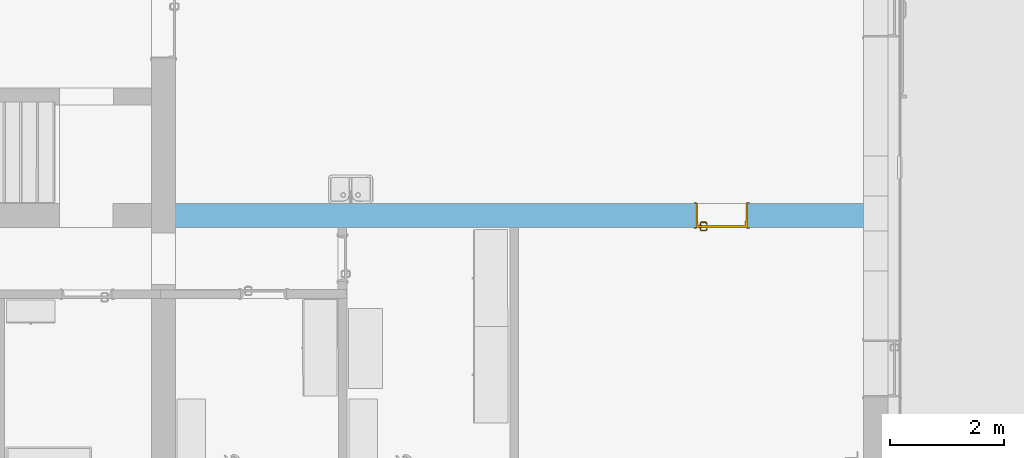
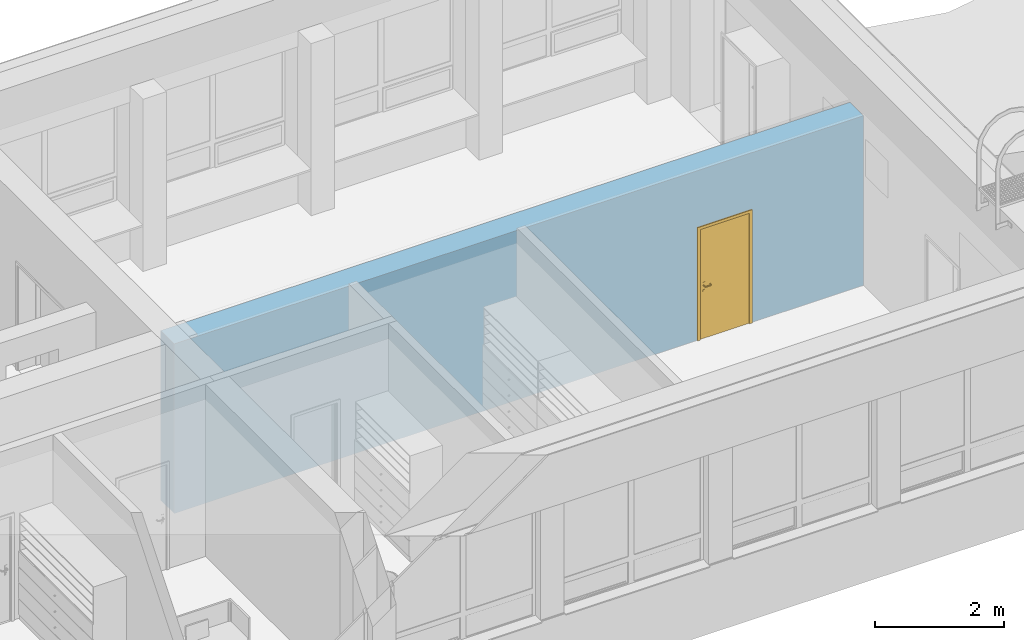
# One storey, part 68 of 194: 1 door, 1 opening, plus 1 element that does not belong to this part.
"""IFC2X3 building model written with IfcOpenShell, lengths in millimetres."""

from ifc_helpers import new_model, entity, si_unit, converted_unit, derived_unit, money_unit, direction, frame, origin_with_axes, origin_2d_with_axis, place, context, subcontext, project, spatial, polyline, rectangle, outline, extrude, open_shell, faceted_brep, surface_model, material, layer, layer_set, layer_usage, type_object, element, fill, save


model = new_model("IFC2X3")

# Units and contexts
model_context = context("Model", 3, precision=1e-05, world=origin_with_axes(), true_north=direction((0.0, 1.0)))
body_context = subcontext(model_context, "Body", "Model", "MODEL_VIEW")
ifc_project = project(units=[si_unit("LENGTHUNIT", "METRE", prefix="MILLI"), si_unit("AREAUNIT", "SQUARE_METRE"), si_unit("VOLUMEUNIT", "CUBIC_METRE"), converted_unit("PLANEANGLEUNIT", "DEGREE", entity("IfcPlaneAngleMeasure", 0.0174532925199), si_unit("PLANEANGLEUNIT", "RADIAN"), dimensions=[0, 0, 0, 0, 0, 0, 0]), si_unit("SOLIDANGLEUNIT", "STERADIAN"), money_unit("EUR"), converted_unit("TIMEUNIT", "Year", entity("IfcTimeMeasure", 31556926.0), si_unit("TIMEUNIT", "SECOND"), dimensions=[0, 0, 1, 0, 0, 0, 0]), si_unit("MASSUNIT", "GRAM", prefix="KILO"), si_unit("THERMODYNAMICTEMPERATUREUNIT", "DEGREE_CELSIUS"), si_unit("LUMINOUSINTENSITYUNIT", "LUMEN"), si_unit("ENERGYUNIT", "JOULE", prefix="MEGA"), derived_unit("THERMALCONDUCTANCEUNIT", [(si_unit("POWERUNIT", "WATT"), 1), (si_unit("LENGTHUNIT", "METRE"), -1), (si_unit("THERMODYNAMICTEMPERATUREUNIT", "KELVIN"), -1)]), derived_unit("SPECIFICHEATCAPACITYUNIT", [(si_unit("ENERGYUNIT", "JOULE"), 1), (si_unit("MASSUNIT", "GRAM", prefix="KILO"), -1), (si_unit("THERMODYNAMICTEMPERATUREUNIT", "KELVIN"), -1)]), derived_unit("MASSDENSITYUNIT", [(si_unit("MASSUNIT", "GRAM", prefix="KILO"), 1), (si_unit("VOLUMEUNIT", "CUBIC_METRE"), -1)])], contexts=[model_context])

# Site, building, storey
site_placement = place(None, origin_with_axes())
site = spatial("IfcSite", under=ifc_project, at=site_placement, Name="Site", CompositionType="ELEMENT")
building_placement = place(site_placement, origin_with_axes())
building = spatial("IfcBuilding", under=site, at=building_placement, Name="Building", CompositionType="ELEMENT")
storey_placement = place(building_placement, frame((0.0, 0.0, 3000.0), z_axis=(0.0, 0.0, 1.0), x_axis=(1.0, 0.0, 0.0)))
storey = spatial("IfcBuildingStorey", under=building, at=storey_placement, Name="2 KORRUS", CompositionType="ELEMENT", Elevation=3000.0)

# Wall, opening, door
ifc_material = material(Name="Kivi -Ol.Olev Konstruktsioon")
ifc_layer = layer(ifc_material, 420.0, ventilated="UNKNOWN")
ifc_layer_set = layer_set([ifc_layer], Name="ol.olev ss 420")
ifc_layer_usage = layer_usage(ifc_layer_set, "AXIS2", "POSITIVE", -420.0)
wall_type = type_object("IfcWallType", Name="SW - 022", PredefinedType="NOTDEFINED")
wall_placement = place(storey_placement, frame((87894.6853149, 41003.0649281, 0.0), z_axis=(0.0, 0.0, 1.0), x_axis=(1.0, 0.0, 0.0)))
wall = element("IfcWallStandardCase", 1, at=wall_placement, inside=storey, type_object=wall_type, material=ifc_layer_usage, Name="ol.olev ss 420", context=body_context, shape_type="SweptSolid", body=[
    extrude(outline(polyline([(0.0, -420.0), (12301.4890109, -420.0), (12301.424341, 0.0), (0.0, 0.0), (0.0, -420.0)])), origin_with_axes(), (0.0, 0.0, 1.0), 3200.0),
])
opening_placement = place(wall_placement, frame((9820.15391739, 0.0, 0.0), z_axis=(0.0, 0.0, 1.0), x_axis=(1.0, 0.0, 0.0)))
opening = element("IfcOpeningElement", 2, at=opening_placement, cuts=wall, Name="Siseuks * Door 22", context=body_context, shape_type="SweptSolid", body=[
    extrude(rectangle(XDim=900.0, YDim=2100.0, at=origin_2d_with_axis()), frame((0.0, 420.0, 1050.0), z_axis=(0.0, 1.0, 0.0), x_axis=(1.0, 0.0, 0.0)), (0.0, 0.0, -1.0), 1260.0),
    extrude(rectangle(XDim=974.0, YDim=2137.0, at=origin_2d_with_axis()), frame((0.0, 0.0, 1068.5), z_axis=(0.0, 1.0, 0.0), x_axis=(1.0, 0.0, 0.0)), (0.0, 0.0, 1.0), 420.0),
    extrude(rectangle(XDim=974.0, YDim=2137.0, at=origin_2d_with_axis()), frame((0.0, -420.0, 1068.5), z_axis=(0.0, -1.0, 0.0), x_axis=(1.0, 0.0, 0.0)), (0.0, 0.0, 1.0), 420.0),
])
door_style = type_object("IfcDoorStyle", Name="SU-B246   900×2\xa0100", ConstructionType="NOTDEFINED", OperationType="SINGLE_SWING_LEFT", ParameterTakesPrecedence=False, Sizeable=False)
door_placement = place(opening_placement, frame((450.0, 0.0, 0.0), z_axis=(0.0, 0.0, 1.0), x_axis=(-1.0, 0.0, 0.0)))
door = element("IfcDoor", 3, at=door_placement, inside=storey, type_object=door_style, Name="Siseuks * Door 22", OverallHeight=2100.0, OverallWidth=900.0, context=body_context, shape_type="SurfaceModel", body=[
    faceted_brep([(900.0, 305.0, 0.0), (900.0, 0.0, 0.0), (875.0, 0.0, 0.0), (875.0, 305.0, 0.0), (900.0, 305.0, 2100.0), (900.0, 0.0, 2100.0), (875.0, 0.0, 2075.0), (875.0, 305.0, 2075.0)], [[[0, 1, 2, 3]], [[4, 5, 1, 0]], [[1, 5, 6, 2]], [[3, 2, 6, 7]], [[0, 3, 7, 4]], [[7, 6, 5, 4]]]),
    faceted_brep([(0.0, 305.0, 2100.0), (0.0, 0.0, 2100.0), (25.0000000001, 0.0, 2075.0), (25.0000000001, 305.0, 2075.0), (0.0, 305.0, 0.0), (0.0, 0.0, 0.0), (25.0000000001, 0.0, 0.0), (25.0000000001, 305.0, 0.0)], [[[0, 1, 2, 3]], [[4, 5, 1, 0]], [[1, 5, 6, 2]], [[3, 2, 6, 7]], [[0, 3, 7, 4]], [[7, 6, 5, 4]]]),
    faceted_brep([(875.0, 305.0, 2075.0), (875.0, 0.0, 2075.0), (25.0000000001, 0.0, 2075.0), (25.0000000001, 305.0, 2075.0), (900.0, 305.0, 2100.0), (900.0, 0.0, 2100.0), (0.0, 0.0, 2100.0), (0.0, 305.0, 2100.0)], [[[0, 1, 2, 3]], [[4, 5, 1, 0]], [[1, 5, 6, 2]], [[3, 2, 6, 7]], [[0, 3, 7, 4]], [[7, 6, 5, 4]]]),
    faceted_brep([(937.0, -19.0000000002, 0.0), (887.0, -19.0000000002, 0.0), (887.0, 0.0, 0.0), (937.0, 0.0, 0.0), (937.0, -19.0000000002, 2137.0), (887.0, -19.0000000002, 2087.0), (887.0, 0.0, 2087.0), (937.0, 0.0, 2137.0)], [[[0, 1, 2, 3]], [[0, 4, 5, 1]], [[1, 5, 6, 2]], [[3, 2, 6, 7]], [[4, 0, 3, 7]], [[5, 4, 7, 6]]]),
    faceted_brep([(-36.9999999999, -19.0000000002, 2137.0), (13.0, -19.0000000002, 2087.0), (13.0, 0.0, 2087.0), (-36.9999999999, 0.0, 2137.0), (-36.9999999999, -19.0000000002, 0.0), (13.0, -19.0000000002, 0.0), (13.0, 0.0, 0.0), (-36.9999999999, 0.0, 0.0)], [[[0, 1, 2, 3]], [[0, 4, 5, 1]], [[1, 5, 6, 2]], [[3, 2, 6, 7]], [[4, 0, 3, 7]], [[5, 4, 7, 6]]]),
    faceted_brep([(937.0, -19.0000000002, 2137.0), (887.0, -19.0000000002, 2087.0), (887.0, 0.0, 2087.0), (937.0, 0.0, 2137.0), (-36.9999999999, -19.0000000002, 2137.0), (13.0, -19.0000000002, 2087.0), (13.0, 0.0, 2087.0), (-36.9999999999, 0.0, 2137.0)], [[[0, 1, 2, 3]], [[0, 4, 5, 1]], [[1, 5, 6, 2]], [[3, 2, 6, 7]], [[4, 0, 3, 7]], [[5, 4, 7, 6]]]),
    faceted_brep([(937.0, 439.0, 0.0), (937.0, 420.0, 0.0), (887.0, 420.0, 0.0), (887.0, 439.0, 0.0), (937.0, 439.0, 2137.0), (937.0, 420.0, 2137.0), (887.0, 420.0, 2087.0), (887.0, 439.0, 2087.0)], [[[0, 1, 2, 3]], [[4, 5, 1, 0]], [[1, 5, 6, 2]], [[3, 2, 6, 7]], [[0, 3, 7, 4]], [[7, 6, 5, 4]]]),
    faceted_brep([(-36.9999999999, 439.0, 2137.0), (-36.9999999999, 420.0, 2137.0), (13.0, 420.0, 2087.0), (13.0, 439.0, 2087.0), (-36.9999999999, 439.0, 0.0), (-36.9999999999, 420.0, 0.0), (13.0, 420.0, 0.0), (13.0, 439.0, 0.0)], [[[0, 1, 2, 3]], [[4, 5, 1, 0]], [[1, 5, 6, 2]], [[3, 2, 6, 7]], [[0, 3, 7, 4]], [[7, 6, 5, 4]]]),
    faceted_brep([(937.0, 439.0, 2137.0), (937.0, 420.0, 2137.0), (887.0, 420.0, 2087.0), (887.0, 439.0, 2087.0), (-36.9999999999, 439.0, 2137.0), (-36.9999999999, 420.0, 2137.0), (13.0, 420.0, 2087.0), (13.0, 439.0, 2087.0)], [[[0, 1, 2, 3]], [[4, 5, 1, 0]], [[1, 5, 6, 2]], [[3, 2, 6, 7]], [[0, 3, 7, 4]], [[7, 6, 5, 4]]]),
    faceted_brep([(860.0, 380.0, 0.0), (860.0, 305.0, 0.0), (860.0, 305.0, 2060.0), (860.0, 380.0, 2060.0), (872.0, 380.0, 0.0), (872.0, 420.0, 0.0), (900.0, 420.0, 0.0), (900.0, 305.0, 0.0), (900.0, 305.0, 2060.0), (872.0, 380.0, 2060.0), (900.0, 420.0, 2060.0), (872.0, 420.0, 2060.0)], [[[0, 1, 2, 3]], [[4, 5, 6, 7, 1, 0]], [[1, 7, 8, 2]], [[9, 3, 2, 8, 10, 11]], [[9, 4, 0, 3]], [[11, 5, 4, 9]], [[11, 10, 6, 5]], [[6, 10, 8, 7]]]),
    faceted_brep([(28.0, 380.0, 2060.0), (28.0, 420.0, 2060.0), (0.0, 420.0, 2060.0), (0.0, 305.0, 2060.0), (40.0000000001, 305.0, 2060.0), (40.0000000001, 380.0, 2060.0), (28.0, 380.0, 0.0), (28.0, 420.0, 0.0), (0.0, 420.0, 0.0), (0.0, 305.0, 0.0), (40.0000000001, 305.0, 0.0), (40.0000000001, 380.0, 0.0)], [[[0, 1, 2, 3, 4, 5]], [[0, 6, 7, 1]], [[7, 8, 2, 1]], [[2, 8, 9, 3]], [[3, 9, 10, 4]], [[5, 4, 10, 11]], [[5, 11, 6, 0]], [[6, 11, 10, 9, 8, 7]]]),
    faceted_brep([(872.0, 420.0, 2072.0), (28.0, 420.0, 2072.0), (28.0, 420.0, 2060.0), (0.0, 420.0, 2060.0), (0.0, 420.0, 2100.0), (900.0, 420.0, 2100.0), (900.0, 420.0, 2060.0), (872.0, 420.0, 2060.0), (872.0, 380.0, 2072.0), (28.0, 380.0, 2072.0), (28.0, 380.0, 2060.0), (40.0000000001, 380.0, 2060.0), (40.0000000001, 305.0, 2060.0), (0.0, 305.0, 2060.0), (0.0, 305.0, 2100.0), (900.0, 305.0, 2100.0), (900.0, 305.0, 2060.0), (872.0, 380.0, 2060.0), (860.0, 305.0, 2060.0), (860.0, 380.0, 2060.0)], [[[0, 1, 2, 3, 4, 5, 6, 7]], [[0, 8, 9, 1]], [[1, 9, 10, 2]], [[10, 11, 12, 13, 3, 2]], [[4, 3, 13, 14]], [[5, 4, 14, 15]], [[6, 5, 15, 16]], [[17, 7, 6, 16, 18, 19]], [[7, 17, 8, 0]], [[10, 9, 8, 17, 19, 11]], [[19, 18, 12, 11]], [[12, 18, 16, 15, 14, 13]]]),
    faceted_brep([(850.5, 380.0, 1060.0), (793.5, 380.0, 1060.0), (793.5, 377.0, 1060.0), (850.5, 377.0, 1060.0), (850.5, 380.0, 870.0), (793.5, 380.0, 870.0), (793.5, 377.0, 870.0), (850.5, 377.0, 870.0)], [[[0, 1, 2, 3]], [[0, 4, 5, 1]], [[1, 5, 6, 2]], [[3, 2, 6, 7]], [[4, 0, 3, 7]], [[5, 4, 7, 6]]]),
    surface_model("IfcShellBasedSurfaceModel", [(812.0, 367.0, 1000.0), (814.928932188, 367.0, 992.928932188), (814.928932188, 347.696439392, 992.928932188), (812.0, 347.984914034, 1000.0), (822.0, 367.0, 990.0), (822.0, 347.0, 990.0), (813.816790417, 342.105325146, 992.928932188), (811.057796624, 343.248137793, 1000.0), (814.928932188, 367.0, 1007.07106781), (814.928932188, 347.696439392, 1007.07106781), (829.071067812, 367.0, 992.928932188), (829.071067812, 346.303560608, 992.928932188), (820.47759065, 339.346331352, 990.0), (811.044179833, 337.955820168, 992.928932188), (808.932537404, 340.067462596, 1000.0), (813.816790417, 342.105325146, 1007.07106781), (822.0, 367.0, 1010.0), (822.0, 347.0, 1010.0), (832.0, 367.0, 1000.0), (832.0, 346.015085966, 1000.0), (827.138390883, 336.58733756, 992.928932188), (816.142135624, 332.857864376, 990.0), (806.894674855, 335.183209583, 992.928932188), (805.751862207, 337.942203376, 1000.0), (811.044179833, 337.955820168, 1007.07106781), (820.47759065, 339.346331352, 1010.0), (829.071067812, 367.0, 1007.07106781), (829.071067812, 346.303560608, 1007.07106781), (829.897384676, 335.444524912, 1000.0), (821.240091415, 327.759908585, 992.928932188), (809.653668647, 328.52240935, 990.0), (801.303560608, 334.071067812, 992.928932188), (801.015085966, 337.0, 1000.0), (806.894674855, 335.183209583, 1007.07106781), (816.142135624, 332.857864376, 1010.0), (827.138390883, 336.58733756, 1007.07106781), (823.351733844, 325.648266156, 1000.0), (812.41266244, 321.861609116, 992.928932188), (802.0, 327.0, 990.0), (732.696439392, 334.071067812, 992.928932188), (732.984914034, 337.0, 1000.0), (801.303560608, 334.071067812, 1007.07106781), (809.653668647, 328.52240935, 1010.0), (821.240091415, 327.759908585, 1007.07106781), (813.555475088, 319.102615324, 1000.0), (802.696439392, 319.928932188, 992.928932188), (732.0, 327.0, 990.0), (727.105325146, 335.183209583, 992.928932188), (728.248137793, 337.942203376, 1000.0), (732.696439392, 334.071067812, 1007.07106781), (802.0, 327.0, 1010.0), (812.41266244, 321.861609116, 1007.07106781), (802.984914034, 317.0, 1000.0), (731.303560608, 319.928932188, 992.928932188), (724.346331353, 328.52240935, 990.0), (722.955820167, 337.955820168, 992.928932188), (725.067462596, 340.067462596, 1000.0), (727.105325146, 335.183209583, 1007.07106781), (732.0, 327.0, 1010.0), (802.696439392, 319.928932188, 1007.07106781), (731.015085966, 317.0, 1000.0), (721.58733756, 321.861609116, 992.928932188), (717.857864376, 332.857864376, 990.0), (720.183209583, 342.105325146, 992.928932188), (722.942203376, 343.248137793, 1000.0), (722.955820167, 337.955820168, 1007.07106781), (724.346331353, 328.52240935, 1010.0), (731.303560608, 319.928932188, 1007.07106781), (720.444524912, 319.102615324, 1000.0), (712.759908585, 327.759908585, 992.928932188), (713.52240935, 339.346331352, 990.0), (719.071067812, 347.696439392, 992.928932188), (722.0, 347.984914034, 1000.0), (720.183209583, 342.105325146, 1007.07106781), (717.857864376, 332.857864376, 1010.0), (721.58733756, 321.861609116, 1007.07106781), (710.648266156, 325.648266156, 1000.0), (706.861609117, 336.58733756, 992.928932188), (712.0, 347.0, 990.0), (719.071067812, 367.0, 992.928932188), (722.0, 367.0, 1000.0), (719.071067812, 347.696439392, 1007.07106781), (713.52240935, 339.346331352, 1010.0), (712.759908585, 327.759908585, 1007.07106781), (704.102615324, 335.444524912, 1000.0), (704.928932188, 346.303560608, 992.928932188), (712.0, 367.0, 990.0), (704.928932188, 367.0, 992.928932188), (702.0, 367.0, 1000.0), (704.928932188, 367.0, 1007.07106781), (712.0, 367.0, 1010.0), (719.071067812, 367.0, 1007.07106781), (712.0, 347.0, 1010.0), (706.861609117, 336.58733756, 1007.07106781), (702.0, 346.015085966, 1000.0), (704.928932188, 346.303560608, 1007.07106781)], [open_shell([[[0, 1, 2, 3]], [[1, 4, 5, 2]], [[3, 2, 6, 7]], [[8, 0, 3, 9]], [[4, 10, 11, 5]], [[2, 5, 12, 6]], [[7, 6, 13, 14]], [[9, 3, 7, 15]], [[16, 8, 9, 17]], [[10, 18, 19, 11]], [[5, 11, 20, 12]], [[6, 12, 21, 13]], [[14, 13, 22, 23]], [[15, 7, 14, 24]], [[17, 9, 15, 25]], [[26, 16, 17, 27]], [[18, 26, 27, 19]], [[11, 19, 28, 20]], [[12, 20, 29, 21]], [[13, 21, 30, 22]], [[23, 22, 31, 32]], [[24, 14, 23, 33]], [[25, 15, 24, 34]], [[27, 17, 25, 35]], [[19, 27, 35, 28]], [[20, 28, 36, 29]], [[21, 29, 37, 30]], [[22, 30, 38, 31]], [[32, 31, 39, 40]], [[33, 23, 32, 41]], [[34, 24, 33, 42]], [[35, 25, 34, 43]], [[28, 35, 43, 36]], [[29, 36, 44, 37]], [[30, 37, 45, 38]], [[31, 38, 46, 39]], [[40, 39, 47, 48]], [[41, 32, 40, 49]], [[42, 33, 41, 50]], [[43, 34, 42, 51]], [[36, 43, 51, 44]], [[37, 44, 52, 45]], [[38, 45, 53, 46]], [[39, 46, 54, 47]], [[48, 47, 55, 56]], [[49, 40, 48, 57]], [[50, 41, 49, 58]], [[51, 42, 50, 59]], [[44, 51, 59, 52]], [[45, 52, 60, 53]], [[46, 53, 61, 54]], [[47, 54, 62, 55]], [[56, 55, 63, 64]], [[57, 48, 56, 65]], [[58, 49, 57, 66]], [[59, 50, 58, 67]], [[52, 59, 67, 60]], [[53, 60, 68, 61]], [[54, 61, 69, 62]], [[55, 62, 70, 63]], [[64, 63, 71, 72]], [[65, 56, 64, 73]], [[66, 57, 65, 74]], [[67, 58, 66, 75]], [[60, 67, 75, 68]], [[61, 68, 76, 69]], [[62, 69, 77, 70]], [[63, 70, 78, 71]], [[72, 71, 79, 80]], [[73, 64, 72, 81]], [[74, 65, 73, 82]], [[75, 66, 74, 83]], [[68, 75, 83, 76]], [[69, 76, 84, 77]], [[70, 77, 85, 78]], [[71, 78, 86, 79]], [[80, 79, 86, 87, 88, 89, 90, 91]], [[81, 72, 80, 91]], [[82, 73, 81, 92]], [[83, 74, 82, 93]], [[76, 83, 93, 84]], [[77, 84, 94, 85]], [[78, 85, 87, 86]], [[85, 94, 88, 87]], [[94, 95, 89, 88]], [[95, 92, 90, 89]], [[92, 81, 91, 90]], [[93, 82, 92, 95]], [[84, 93, 95, 94]]])]),
    faceted_brep([(811.607695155, 367.0, 994.0), (810.0, 367.0, 1000.0), (809.0, 377.0, 1000.0), (810.741669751, 377.0, 993.5), (816.0, 367.0, 989.607695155), (822.0, 367.0, 988.0), (828.0, 367.0, 989.607695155), (832.392304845, 367.0, 994.0), (834.0, 367.0, 1000.0), (832.392304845, 367.0, 1006.0), (828.0, 367.0, 1010.39230485), (822.0, 367.0, 1012.0), (816.0, 367.0, 1010.39230485), (811.607695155, 367.0, 1006.0), (810.741669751, 377.0, 1006.5), (815.5, 377.0, 1011.25833025), (822.0, 377.0, 1013.0), (828.5, 377.0, 1011.25833025), (833.258330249, 377.0, 1006.5), (835.0, 377.0, 1000.0), (833.258330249, 377.0, 993.5), (828.5, 377.0, 988.741669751), (822.0, 377.0, 987.0), (815.5, 377.0, 988.741669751)], [[[0, 1, 2, 3]], [[1, 0, 4, 5, 6, 7, 8, 9, 10, 11, 12, 13]], [[1, 13, 14, 2]], [[2, 14, 15, 16, 17, 18, 19, 20, 21, 22, 23, 3]], [[4, 0, 3, 23]], [[5, 4, 23, 22]], [[6, 5, 22, 21]], [[7, 6, 21, 20]], [[8, 7, 20, 19]], [[9, 8, 19, 18]], [[10, 9, 18, 17]], [[11, 10, 17, 16]], [[12, 11, 16, 15]], [[13, 12, 15, 14]]]),
    faceted_brep([(804.679491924, 373.000000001, 895.0), (802.0, 373.000000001, 905.0), (800.0, 377.0, 905.0), (802.947441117, 377.0, 894.0), (812.0, 373.000000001, 887.679491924), (822.0, 373.000000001, 885.0), (832.0, 373.000000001, 887.679491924), (839.320508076, 373.000000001, 895.0), (842.0, 373.000000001, 905.0), (839.320508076, 373.000000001, 915.0), (832.0, 373.000000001, 922.320508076), (822.0, 373.000000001, 925.0), (812.0, 373.000000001, 922.320508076), (804.679491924, 373.000000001, 915.0), (802.947441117, 377.0, 916.0), (811.0, 377.0, 924.052558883), (822.0, 377.0, 927.0), (833.0, 377.0, 924.052558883), (841.052558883, 377.0, 916.0), (844.0, 377.0, 905.0), (841.052558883, 377.0, 894.0), (833.0, 377.0, 885.947441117), (822.0, 377.0, 883.0), (811.0, 377.0, 885.947441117)], [[[0, 1, 2, 3]], [[1, 0, 4, 5, 6, 7, 8, 9, 10, 11, 12, 13]], [[1, 13, 14, 2]], [[2, 14, 15, 16, 17, 18, 19, 20, 21, 22, 23, 3]], [[4, 0, 3, 23]], [[5, 4, 23, 22]], [[6, 5, 22, 21]], [[7, 6, 21, 20]], [[8, 7, 20, 19]], [[9, 8, 19, 18]], [[10, 9, 18, 17]], [[11, 10, 17, 16]], [[12, 11, 16, 15]], [[13, 12, 15, 14]]]),
    faceted_brep([(817.050252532, 371.0, 909.050252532), (815.0, 371.0, 914.0), (814.0, 373.000000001, 914.0), (816.343145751, 373.000000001, 908.343145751), (822.0, 371.0, 907.0), (826.949747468, 371.0, 909.050252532), (829.0, 371.0, 914.0), (826.949747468, 371.0, 918.949747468), (822.0, 371.0, 921.0), (817.050252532, 371.0, 918.949747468), (816.343145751, 373.000000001, 919.656854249), (822.0, 373.000000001, 922.0), (827.65685425, 373.000000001, 919.656854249), (830.0, 373.000000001, 914.0), (827.65685425, 373.000000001, 908.343145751), (822.0, 373.000000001, 906.0)], [[[0, 1, 2, 3]], [[1, 0, 4, 5, 6, 7, 8, 9]], [[1, 9, 10, 2]], [[2, 10, 11, 12, 13, 14, 15, 3]], [[4, 0, 3, 15]], [[5, 4, 15, 14]], [[6, 5, 14, 13]], [[7, 6, 13, 12]], [[8, 7, 12, 11]], [[9, 8, 11, 10]]]),
    faceted_brep([(850.5, 420.0, 1060.0), (850.5, 423.0, 1060.0), (793.5, 423.0, 1060.0), (793.5, 420.0, 1060.0), (850.5, 420.0, 870.0), (850.5, 423.0, 870.0), (793.5, 423.0, 870.0), (793.5, 420.0, 870.0)], [[[0, 1, 2, 3]], [[4, 5, 1, 0]], [[1, 5, 6, 2]], [[3, 2, 6, 7]], [[0, 3, 7, 4]], [[7, 6, 5, 4]]]),
    surface_model("IfcShellBasedSurfaceModel", [(812.0, 433.0, 1000.0), (812.0, 452.015085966, 1000.0), (814.928932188, 452.303560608, 992.928932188), (814.928932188, 433.0, 992.928932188), (814.928932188, 433.0, 1007.07106781), (814.928932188, 452.303560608, 1007.07106781), (811.057796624, 456.751862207, 1000.0), (813.816790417, 457.894674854, 992.928932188), (822.0, 453.0, 990.0), (822.0, 433.0, 990.0), (822.0, 433.0, 1010.0), (822.0, 453.0, 1010.0), (813.816790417, 457.894674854, 1007.07106781), (808.932537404, 459.932537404, 1000.0), (811.044179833, 462.044179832, 992.928932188), (820.47759065, 460.653668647, 990.0), (829.071067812, 453.696439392, 992.928932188), (829.071067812, 433.0, 992.928932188), (829.071067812, 433.0, 1007.07106781), (829.071067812, 453.696439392, 1007.07106781), (820.47759065, 460.653668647, 1010.0), (811.044179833, 462.044179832, 1007.07106781), (805.751862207, 462.057796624, 1000.0), (806.894674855, 464.816790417, 992.928932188), (816.142135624, 467.142135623, 990.0), (827.138390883, 463.412662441, 992.928932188), (832.0, 453.984914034, 1000.0), (832.0, 433.0, 1000.0), (827.138390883, 463.412662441, 1007.07106781), (816.142135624, 467.142135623, 1010.0), (806.894674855, 464.816790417, 1007.07106781), (801.015085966, 463.0, 1000.0), (801.303560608, 465.928932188, 992.928932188), (809.653668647, 471.47759065, 990.0), (821.240091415, 472.240091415, 992.928932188), (829.897384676, 464.555475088, 1000.0), (821.240091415, 472.240091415, 1007.07106781), (809.653668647, 471.47759065, 1010.0), (801.303560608, 465.928932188, 1007.07106781), (732.984914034, 463.0, 1000.0), (732.696439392, 465.928932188, 992.928932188), (802.0, 473.0, 990.0), (812.41266244, 478.138390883, 992.928932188), (823.351733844, 474.351733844, 1000.0), (812.41266244, 478.138390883, 1007.07106781), (802.0, 473.0, 1010.0), (732.696439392, 465.928932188, 1007.07106781), (728.248137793, 462.057796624, 1000.0), (727.105325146, 464.816790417, 992.928932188), (732.0, 473.0, 990.0), (802.696439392, 480.071067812, 992.928932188), (813.555475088, 480.897384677, 1000.0), (802.696439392, 480.071067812, 1007.07106781), (732.0, 473.0, 1010.0), (727.105325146, 464.816790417, 1007.07106781), (725.067462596, 459.932537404, 1000.0), (722.955820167, 462.044179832, 992.928932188), (724.346331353, 471.47759065, 990.0), (731.303560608, 480.071067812, 992.928932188), (802.984914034, 483.0, 1000.0), (731.303560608, 480.071067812, 1007.07106781), (724.346331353, 471.47759065, 1010.0), (722.955820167, 462.044179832, 1007.07106781), (722.942203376, 456.751862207, 1000.0), (720.183209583, 457.894674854, 992.928932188), (717.857864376, 467.142135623, 990.0), (721.58733756, 478.138390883, 992.928932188), (731.015085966, 483.0, 1000.0), (721.58733756, 478.138390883, 1007.07106781), (717.857864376, 467.142135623, 1010.0), (720.183209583, 457.894674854, 1007.07106781), (722.0, 452.015085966, 1000.0), (719.071067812, 452.303560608, 992.928932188), (713.52240935, 460.653668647, 990.0), (712.759908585, 472.240091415, 992.928932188), (720.444524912, 480.897384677, 1000.0), (712.759908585, 472.240091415, 1007.07106781), (713.52240935, 460.653668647, 1010.0), (719.071067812, 452.303560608, 1007.07106781), (722.0, 433.0, 1000.0), (719.071067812, 433.0, 992.928932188), (712.0, 453.0, 990.0), (706.861609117, 463.412662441, 992.928932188), (710.648266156, 474.351733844, 1000.0), (706.861609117, 463.412662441, 1007.07106781), (712.0, 453.0, 1010.0), (719.071067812, 433.0, 1007.07106781), (712.0, 433.0, 1010.0), (704.928932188, 433.0, 1007.07106781), (702.0, 433.0, 1000.0), (704.928932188, 433.0, 992.928932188), (712.0, 433.0, 990.0), (704.928932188, 453.696439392, 992.928932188), (704.102615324, 464.555475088, 1000.0), (704.928932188, 453.696439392, 1007.07106781), (702.0, 453.984914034, 1000.0)], [open_shell([[[0, 1, 2, 3]], [[4, 5, 1, 0]], [[1, 6, 7, 2]], [[3, 2, 8, 9]], [[10, 11, 5, 4]], [[5, 12, 6, 1]], [[6, 13, 14, 7]], [[2, 7, 15, 8]], [[9, 8, 16, 17]], [[18, 19, 11, 10]], [[11, 20, 12, 5]], [[12, 21, 13, 6]], [[13, 22, 23, 14]], [[7, 14, 24, 15]], [[8, 15, 25, 16]], [[17, 16, 26, 27]], [[27, 26, 19, 18]], [[19, 28, 20, 11]], [[20, 29, 21, 12]], [[21, 30, 22, 13]], [[22, 31, 32, 23]], [[14, 23, 33, 24]], [[15, 24, 34, 25]], [[16, 25, 35, 26]], [[26, 35, 28, 19]], [[28, 36, 29, 20]], [[29, 37, 30, 21]], [[30, 38, 31, 22]], [[31, 39, 40, 32]], [[23, 32, 41, 33]], [[24, 33, 42, 34]], [[25, 34, 43, 35]], [[35, 43, 36, 28]], [[36, 44, 37, 29]], [[37, 45, 38, 30]], [[38, 46, 39, 31]], [[39, 47, 48, 40]], [[32, 40, 49, 41]], [[33, 41, 50, 42]], [[34, 42, 51, 43]], [[43, 51, 44, 36]], [[44, 52, 45, 37]], [[45, 53, 46, 38]], [[46, 54, 47, 39]], [[47, 55, 56, 48]], [[40, 48, 57, 49]], [[41, 49, 58, 50]], [[42, 50, 59, 51]], [[51, 59, 52, 44]], [[52, 60, 53, 45]], [[53, 61, 54, 46]], [[54, 62, 55, 47]], [[55, 63, 64, 56]], [[48, 56, 65, 57]], [[49, 57, 66, 58]], [[50, 58, 67, 59]], [[59, 67, 60, 52]], [[60, 68, 61, 53]], [[61, 69, 62, 54]], [[62, 70, 63, 55]], [[63, 71, 72, 64]], [[56, 64, 73, 65]], [[57, 65, 74, 66]], [[58, 66, 75, 67]], [[67, 75, 68, 60]], [[68, 76, 69, 61]], [[69, 77, 70, 62]], [[70, 78, 71, 63]], [[71, 79, 80, 72]], [[64, 72, 81, 73]], [[65, 73, 82, 74]], [[66, 74, 83, 75]], [[75, 83, 76, 68]], [[76, 84, 77, 69]], [[77, 85, 78, 70]], [[78, 86, 79, 71]], [[79, 86, 87, 88, 89, 90, 91, 80]], [[72, 80, 91, 81]], [[73, 81, 92, 82]], [[74, 82, 93, 83]], [[83, 93, 84, 76]], [[84, 94, 85, 77]], [[85, 87, 86, 78]], [[94, 88, 87, 85]], [[95, 89, 88, 94]], [[92, 90, 89, 95]], [[81, 91, 90, 92]], [[82, 92, 95, 93]], [[93, 95, 94, 84]]])]),
    faceted_brep([(811.607695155, 433.0, 994.0), (810.741669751, 423.0, 993.5), (809.0, 423.0, 1000.0), (810.0, 433.0, 1000.0), (816.0, 433.0, 989.607695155), (815.5, 423.0, 988.741669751), (822.0, 423.0, 987.0), (828.5, 423.0, 988.741669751), (833.258330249, 423.0, 993.5), (835.0, 423.0, 1000.0), (833.258330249, 423.0, 1006.5), (828.5, 423.0, 1011.25833025), (822.0, 423.0, 1013.0), (815.5, 423.0, 1011.25833025), (810.741669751, 423.0, 1006.5), (811.607695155, 433.0, 1006.0), (816.0, 433.0, 1010.39230485), (822.0, 433.0, 1012.0), (828.0, 433.0, 1010.39230485), (832.392304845, 433.0, 1006.0), (834.0, 433.0, 1000.0), (832.392304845, 433.0, 994.0), (828.0, 433.0, 989.607695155), (822.0, 433.0, 988.0)], [[[0, 1, 2, 3]], [[4, 5, 1, 0]], [[2, 1, 5, 6, 7, 8, 9, 10, 11, 12, 13, 14]], [[3, 2, 14, 15]], [[3, 15, 16, 17, 18, 19, 20, 21, 22, 23, 4, 0]], [[23, 6, 5, 4]], [[22, 7, 6, 23]], [[21, 8, 7, 22]], [[20, 9, 8, 21]], [[19, 10, 9, 20]], [[18, 11, 10, 19]], [[17, 12, 11, 18]], [[16, 13, 12, 17]], [[15, 14, 13, 16]]]),
    faceted_brep([(804.679491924, 427.0, 895.0), (802.947441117, 423.0, 894.0), (800.0, 423.0, 905.0), (802.0, 427.0, 905.0), (812.0, 427.0, 887.679491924), (811.0, 423.0, 885.947441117), (822.0, 423.0, 883.0), (833.0, 423.0, 885.947441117), (841.052558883, 423.0, 894.0), (844.0, 423.0, 905.0), (841.052558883, 423.0, 916.0), (833.0, 423.0, 924.052558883), (822.0, 423.0, 927.0), (811.0, 423.0, 924.052558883), (802.947441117, 423.0, 916.0), (804.679491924, 427.0, 915.0), (812.0, 427.0, 922.320508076), (822.0, 427.0, 925.0), (832.0, 427.0, 922.320508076), (839.320508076, 427.0, 915.0), (842.0, 427.0, 905.0), (839.320508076, 427.0, 895.0), (832.0, 427.0, 887.679491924), (822.0, 427.0, 885.0)], [[[0, 1, 2, 3]], [[4, 5, 1, 0]], [[2, 1, 5, 6, 7, 8, 9, 10, 11, 12, 13, 14]], [[3, 2, 14, 15]], [[3, 15, 16, 17, 18, 19, 20, 21, 22, 23, 4, 0]], [[23, 6, 5, 4]], [[22, 7, 6, 23]], [[21, 8, 7, 22]], [[20, 9, 8, 21]], [[19, 10, 9, 20]], [[18, 11, 10, 19]], [[17, 12, 11, 18]], [[16, 13, 12, 17]], [[15, 14, 13, 16]]]),
    faceted_brep([(817.050252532, 429.0, 909.050252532), (816.343145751, 427.0, 908.343145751), (814.0, 427.0, 914.0), (815.0, 429.0, 914.0), (822.0, 429.0, 907.0), (822.0, 427.0, 906.0), (827.65685425, 427.0, 908.343145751), (830.0, 427.0, 914.0), (827.65685425, 427.0, 919.656854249), (822.0, 427.0, 922.0), (816.343145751, 427.0, 919.656854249), (817.050252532, 429.0, 918.949747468), (822.0, 429.0, 921.0), (826.949747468, 429.0, 918.949747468), (829.0, 429.0, 914.0), (826.949747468, 429.0, 909.050252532)], [[[0, 1, 2, 3]], [[4, 5, 1, 0]], [[2, 1, 5, 6, 7, 8, 9, 10]], [[3, 2, 10, 11]], [[3, 11, 12, 13, 14, 15, 4, 0]], [[15, 6, 5, 4]], [[14, 7, 6, 15]], [[13, 8, 7, 14]], [[12, 9, 8, 13]], [[11, 10, 9, 12]]]),
    faceted_brep([(28.0, 420.0, 0.0), (872.0, 420.0, 0.0), (872.0, 380.0, 0.0), (28.0, 380.0, 0.0), (28.0, 420.0, 2072.0), (872.0, 420.0, 2072.0), (872.0, 380.0, 2072.0), (28.0, 380.0, 2072.0)], [[[0, 1, 2, 3]], [[0, 4, 5, 1]], [[1, 5, 6, 2]], [[3, 2, 6, 7]], [[4, 0, 3, 7]], [[5, 4, 7, 6]]]),
])
fill(opening, door)

save(model, "model.ifc")
